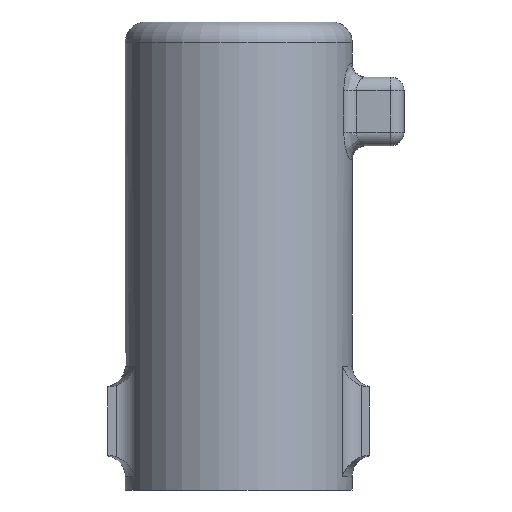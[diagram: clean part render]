
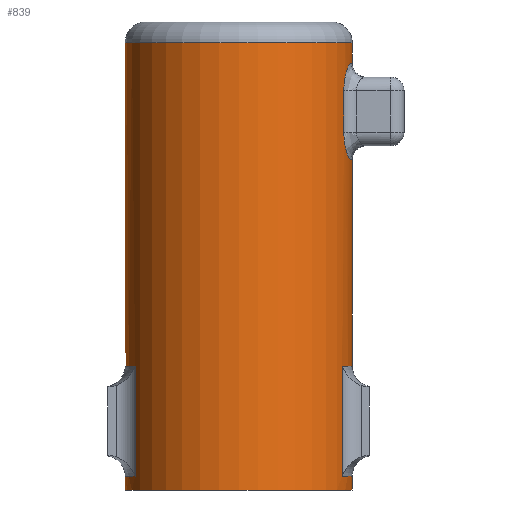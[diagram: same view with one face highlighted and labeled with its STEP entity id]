
A CAD part, front view. The second image highlights one B-rep face of the part: STEP entity #839.
In plain terms, the highlighted cylindrical face has radius 16.5 mm (diameter 33 mm), a full revolution.
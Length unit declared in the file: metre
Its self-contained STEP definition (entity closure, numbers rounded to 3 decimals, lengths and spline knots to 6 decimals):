
#27=B_SPLINE_CURVE_WITH_KNOTS('',3,(#1299,#1300,#1301,#1302,#1303),
 .UNSPECIFIED.,.F.,.F.,(4,1,4),(0.,0.003035,0.006071),
 .UNSPECIFIED.);
#28=B_SPLINE_CURVE_WITH_KNOTS('',3,(#1308,#1309,#1310,#1311,#1312),
 .UNSPECIFIED.,.F.,.F.,(4,1,4),(0.,0.003021,0.006042),
 .UNSPECIFIED.);
#29=B_SPLINE_CURVE_WITH_KNOTS('',3,(#1316,#1317,#1318,#1319,#1320),
 .UNSPECIFIED.,.F.,.F.,(4,1,4),(0.,0.003035,0.006071),
 .UNSPECIFIED.);
#30=B_SPLINE_CURVE_WITH_KNOTS('',3,(#1324,#1325,#1326,#1327,#1328),
 .UNSPECIFIED.,.F.,.F.,(4,1,4),(0.,0.003021,0.006042),
 .UNSPECIFIED.);
#55=CYLINDRICAL_SURFACE('',#916,0.0165);
#79=CIRCLE('',#917,0.0165);
#80=CIRCLE('',#918,0.0165);
#81=CIRCLE('',#919,0.0165);
#82=CIRCLE('',#920,0.0165);
#83=CIRCLE('',#921,0.0165);
#84=CIRCLE('',#922,0.0165);
#85=CIRCLE('',#923,0.0165);
#86=CIRCLE('',#924,0.0165);
#136=ORIENTED_EDGE('',*,*,#382,.F.);
#137=ORIENTED_EDGE('',*,*,#383,.T.);
#138=ORIENTED_EDGE('',*,*,#384,.F.);
#139=ORIENTED_EDGE('',*,*,#385,.T.);
#140=ORIENTED_EDGE('',*,*,#386,.F.);
#141=ORIENTED_EDGE('',*,*,#387,.T.);
#142=ORIENTED_EDGE('',*,*,#388,.F.);
#143=ORIENTED_EDGE('',*,*,#389,.T.);
#144=ORIENTED_EDGE('',*,*,#390,.T.);
#145=ORIENTED_EDGE('',*,*,#391,.T.);
#146=ORIENTED_EDGE('',*,*,#392,.T.);
#147=ORIENTED_EDGE('',*,*,#393,.T.);
#148=ORIENTED_EDGE('',*,*,#394,.T.);
#149=ORIENTED_EDGE('',*,*,#395,.T.);
#150=ORIENTED_EDGE('',*,*,#396,.T.);
#151=ORIENTED_EDGE('',*,*,#397,.T.);
#152=ORIENTED_EDGE('',*,*,#398,.T.);
#153=ORIENTED_EDGE('',*,*,#399,.T.);
#382=EDGE_CURVE('',#505,#506,#27,.T.);
#383=EDGE_CURVE('',#505,#507,#579,.T.);
#384=EDGE_CURVE('',#508,#507,#28,.T.);
#385=EDGE_CURVE('',#508,#509,#79,.F.);
#386=EDGE_CURVE('',#510,#509,#29,.T.);
#387=EDGE_CURVE('',#510,#511,#580,.F.);
#388=EDGE_CURVE('',#512,#511,#30,.T.);
#389=EDGE_CURVE('',#512,#506,#80,.T.);
#390=EDGE_CURVE('',#513,#514,#581,.T.);
#391=EDGE_CURVE('',#514,#515,#81,.F.);
#392=EDGE_CURVE('',#515,#516,#582,.F.);
#393=EDGE_CURVE('',#516,#513,#82,.T.);
#394=EDGE_CURVE('',#517,#518,#83,.T.);
#395=EDGE_CURVE('',#518,#519,#583,.T.);
#396=EDGE_CURVE('',#519,#520,#84,.F.);
#397=EDGE_CURVE('',#520,#517,#584,.F.);
#398=EDGE_CURVE('',#521,#521,#85,.F.);
#399=EDGE_CURVE('',#522,#522,#86,.T.);
#505=VERTEX_POINT('',#1304);
#506=VERTEX_POINT('',#1305);
#507=VERTEX_POINT('',#1307);
#508=VERTEX_POINT('',#1313);
#509=VERTEX_POINT('',#1315);
#510=VERTEX_POINT('',#1321);
#511=VERTEX_POINT('',#1323);
#512=VERTEX_POINT('',#1329);
#513=VERTEX_POINT('',#1332);
#514=VERTEX_POINT('',#1333);
#515=VERTEX_POINT('',#1335);
#516=VERTEX_POINT('',#1337);
#517=VERTEX_POINT('',#1340);
#518=VERTEX_POINT('',#1341);
#519=VERTEX_POINT('',#1343);
#520=VERTEX_POINT('',#1345);
#521=VERTEX_POINT('',#1348);
#522=VERTEX_POINT('',#1350);
#579=LINE('',#1306,#627);
#580=LINE('',#1322,#628);
#581=LINE('',#1331,#629);
#582=LINE('',#1336,#630);
#583=LINE('',#1342,#631);
#584=LINE('',#1346,#632);
#627=VECTOR('',#1042,1.);
#628=VECTOR('',#1045,1.);
#629=VECTOR('',#1048,1.);
#630=VECTOR('',#1051,1.);
#631=VECTOR('',#1056,1.);
#632=VECTOR('',#1059,1.);
#670=EDGE_LOOP('',(#136,#137,#138,#139,#140,#141,#142,#143));
#671=EDGE_LOOP('',(#144,#145,#146,#147));
#672=EDGE_LOOP('',(#148,#149,#150,#151));
#673=EDGE_LOOP('',(#152));
#674=EDGE_LOOP('',(#153));
#742=FACE_BOUND('',#670,.T.);
#743=FACE_BOUND('',#671,.T.);
#744=FACE_BOUND('',#672,.T.);
#745=FACE_BOUND('',#673,.T.);
#746=FACE_BOUND('',#674,.T.);
#839=ADVANCED_FACE('',(#742,#743,#744,#745,#746),#55,.T.);
#916=AXIS2_PLACEMENT_3D('',#1298,#1040,#1041);
#917=AXIS2_PLACEMENT_3D('',#1314,#1043,#1044);
#918=AXIS2_PLACEMENT_3D('',#1330,#1046,#1047);
#919=AXIS2_PLACEMENT_3D('',#1334,#1049,#1050);
#920=AXIS2_PLACEMENT_3D('',#1338,#1052,#1053);
#921=AXIS2_PLACEMENT_3D('',#1339,#1054,#1055);
#922=AXIS2_PLACEMENT_3D('',#1344,#1057,#1058);
#923=AXIS2_PLACEMENT_3D('',#1347,#1060,#1061);
#924=AXIS2_PLACEMENT_3D('',#1349,#1062,#1063);
#1040=DIRECTION('',(0.,0.,-1.));
#1041=DIRECTION('',(-1.,0.,0.));
#1042=DIRECTION('',(0.,0.,-1.));
#1043=DIRECTION('',(0.,0.,1.));
#1044=DIRECTION('',(1.,0.,0.));
#1045=DIRECTION('',(0.,0.,-1.));
#1046=DIRECTION('',(0.,0.,1.));
#1047=DIRECTION('',(1.,0.,0.));
#1048=DIRECTION('',(0.,0.,-1.));
#1049=DIRECTION('',(0.,0.,1.));
#1050=DIRECTION('',(1.,0.,0.));
#1051=DIRECTION('',(0.,0.,-1.));
#1052=DIRECTION('',(0.,0.,1.));
#1053=DIRECTION('',(1.,0.,0.));
#1054=DIRECTION('',(0.,0.,1.));
#1055=DIRECTION('',(1.,0.,0.));
#1056=DIRECTION('',(0.,0.,-1.));
#1057=DIRECTION('',(0.,0.,1.));
#1058=DIRECTION('',(1.,0.,0.));
#1059=DIRECTION('',(0.,0.,-1.));
#1060=DIRECTION('',(0.,0.,1.));
#1061=DIRECTION('',(1.,0.,0.));
#1062=DIRECTION('',(0.,0.,1.));
#1063=DIRECTION('',(1.,0.,0.));
#1298=CARTESIAN_POINT('',(0.,0.,0.06));
#1299=CARTESIAN_POINT('',(0.015273,0.006243,0.053));
#1300=CARTESIAN_POINT('',(0.015273,0.006243,0.054016));
#1301=CARTESIAN_POINT('',(0.015587,0.005548,0.056019));
#1302=CARTESIAN_POINT('',(0.016116,0.003681,0.057));
#1303=CARTESIAN_POINT('',(0.016282,0.002676,0.057));
#1304=CARTESIAN_POINT('',(0.015273,0.006243,0.053));
#1305=CARTESIAN_POINT('',(0.016282,0.002676,0.057));
#1306=CARTESIAN_POINT('',(0.015273,0.006243,0.06));
#1307=CARTESIAN_POINT('',(0.015273,0.006243,0.047));
#1308=CARTESIAN_POINT('',(0.016282,0.002676,0.043));
#1309=CARTESIAN_POINT('',(0.016117,0.00368,0.043));
#1310=CARTESIAN_POINT('',(0.015586,0.00555,0.043983));
#1311=CARTESIAN_POINT('',(0.015273,0.006243,0.045984));
#1312=CARTESIAN_POINT('',(0.015273,0.006243,0.047));
#1313=CARTESIAN_POINT('',(0.016282,0.002676,0.043));
#1314=CARTESIAN_POINT('',(0.,0.,0.043));
#1315=CARTESIAN_POINT('',(0.016282,-0.002676,0.043));
#1316=CARTESIAN_POINT('',(0.015273,-0.006243,0.047));
#1317=CARTESIAN_POINT('',(0.015273,-0.006243,0.045984));
#1318=CARTESIAN_POINT('',(0.015587,-0.005548,0.043981));
#1319=CARTESIAN_POINT('',(0.016116,-0.003681,0.043));
#1320=CARTESIAN_POINT('',(0.016282,-0.002676,0.043));
#1321=CARTESIAN_POINT('',(0.015273,-0.006243,0.047));
#1322=CARTESIAN_POINT('',(0.015273,-0.006243,0.06));
#1323=CARTESIAN_POINT('',(0.015273,-0.006243,0.053));
#1324=CARTESIAN_POINT('',(0.016282,-0.002676,0.057));
#1325=CARTESIAN_POINT('',(0.016117,-0.00368,0.057));
#1326=CARTESIAN_POINT('',(0.015586,-0.00555,0.056017));
#1327=CARTESIAN_POINT('',(0.015273,-0.006243,0.054016));
#1328=CARTESIAN_POINT('',(0.015273,-0.006243,0.053));
#1329=CARTESIAN_POINT('',(0.016282,-0.002676,0.057));
#1330=CARTESIAN_POINT('',(0.,0.,0.057));
#1331=CARTESIAN_POINT('',(-0.015048,-0.006769,0.06));
#1332=CARTESIAN_POINT('',(-0.015048,-0.006769,0.013));
#1333=CARTESIAN_POINT('',(-0.015048,-0.006769,-0.003));
#1334=CARTESIAN_POINT('',(0.,0.,-0.003));
#1335=CARTESIAN_POINT('',(-0.015048,0.006769,-0.003));
#1336=CARTESIAN_POINT('',(-0.015048,0.006769,0.06));
#1337=CARTESIAN_POINT('',(-0.015048,0.006769,0.013));
#1338=CARTESIAN_POINT('',(0.,0.,0.013));
#1339=CARTESIAN_POINT('',(0.,0.,0.013));
#1340=CARTESIAN_POINT('',(0.015048,-0.006769,0.013));
#1341=CARTESIAN_POINT('',(0.015048,0.006769,0.013));
#1342=CARTESIAN_POINT('',(0.015048,0.006769,0.06));
#1343=CARTESIAN_POINT('',(0.015048,0.006769,-0.003));
#1344=CARTESIAN_POINT('',(0.,0.,-0.003));
#1345=CARTESIAN_POINT('',(0.015048,-0.006769,-0.003));
#1346=CARTESIAN_POINT('',(0.015048,-0.006769,0.06));
#1347=CARTESIAN_POINT('',(0.,0.,0.06));
#1348=CARTESIAN_POINT('',(0.0165,0.,0.06));
#1349=CARTESIAN_POINT('',(0.,0.,-0.005));
#1350=CARTESIAN_POINT('',(0.0165,0.,-0.005));
